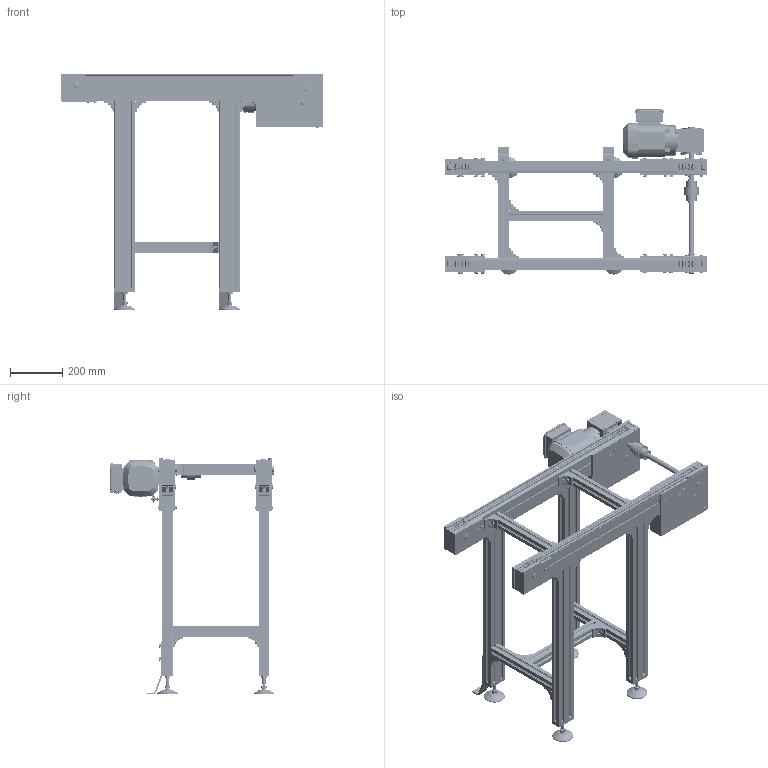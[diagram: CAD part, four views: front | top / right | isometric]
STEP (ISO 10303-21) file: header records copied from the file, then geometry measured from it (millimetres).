
FILE_DESCRIPTION(/* description */ (''),/* implementation_level */ '2;1');
FILE_NAME(/* name */ 'C:\Marketing\01_Versamove-SPU_STEP-Dateien-Homepage\VersamoveStandard\B400\STEP-Dateien\Staurollenförderer_SRF-P-2045_B400_L1000.stp',/* time_stamp */ '2016-12-21T13:47:38+01:00',/* author */ ('herbert.engels'),/* organization */ (''),/* preprocessor_version */ 'ST-DEVELOPER v15.6',/* originating_system */ 'Autodesk Inventor 2015',/* authorisation */ '');
FILE_SCHEMA (('CONFIG_CONTROL_DESIGN'));
Products named in the file (1): Staurollenförderer_SRF-P-2045_B400_L1000
Bounding box: 1000 x 630.57 x 905.05 mm (x, y, z)
Volume: 18989168.8 mm3; surface area: 4713096.7 mm2
Topology: 7 solids, 7 shells, 5282 faces, 14170 edges, 9130 vertices
Faces by surface type: plane 3224, cylinder 1496, cone 373, torus 123, sphere 50, bspline 16
Full cylindrical faces by diameter (mm): 2 x8, 6 x12, 6.647 x8, 7.323 x4, 8 x66, 8.5 x48, 8.7 x4, 9 x8, 10 x4, 10.066 x1, 11.4 x24, 12 x8, 13 x74, 13.6 x8, 14 x40, 15 x8, 16 x10, 18 x4, 19 x4, 19.77 x4, 20 x17, 25 x1, 25.05 x4, 28 x1, 30 x2, 40 x2, 53 x1, 54 x2, 56 x3, 79 x4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
Entity records: 169910 total; most frequent: CARTESIAN_POINT 33430, ORIENTED_EDGE 26916, DIRECTION 26900, EDGE_CURVE 13449, AXIS2_PLACEMENT_3D 9107, VERTEX_POINT 8959, LINE 8686, VECTOR 8686
